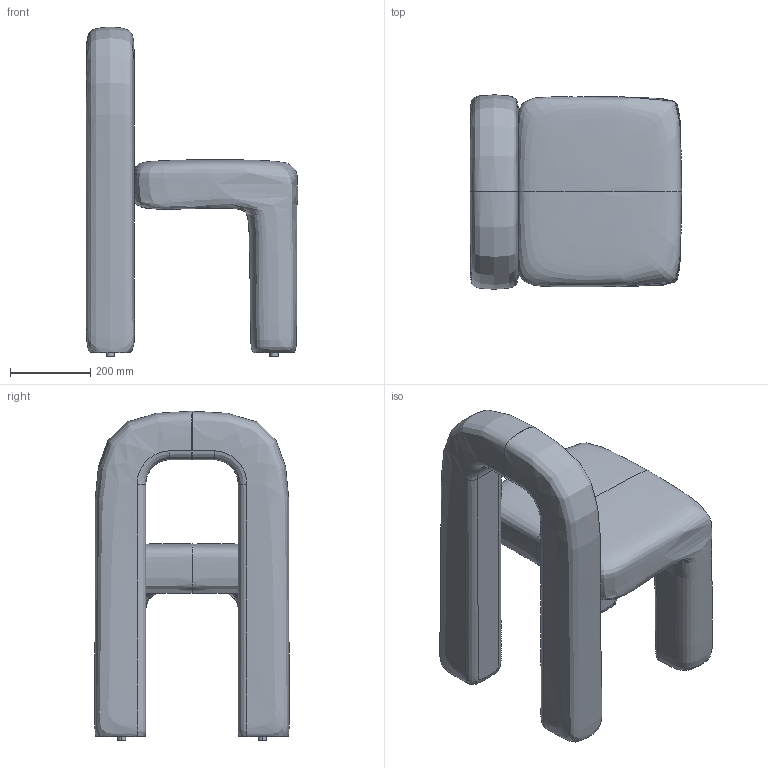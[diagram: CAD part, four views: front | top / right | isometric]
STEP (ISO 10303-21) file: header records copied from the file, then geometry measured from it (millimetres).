
FILE_DESCRIPTION(/* description */ (''),/* implementation_level */ '2;1');
FILE_NAME(/* name */ 'Daiku Dining Chair',/* time_stamp */ '2025-06-02T14:52:08+02:00',/* author */ (''),/* organization */ (''),/* preprocessor_version */ 'ST-DEVELOPER v16.5',/* originating_system */ 'Rhino 7.38',/* authorisation */ '');
FILE_SCHEMA (('CONFIG_CONTROL_DESIGN'));
Length unit declared in the file: millimetre
Products named in the file (1): Document
Bounding box: 525.74 x 483.42 x 819.36 mm (x, y, z)
Volume: 54097816.1 mm3; surface area: 1628911.9 mm2
Topology: 7 solids, 9 shells, 60 faces, 117 edges, 71 vertices
Faces by surface type: bspline 60
Entity records: 23459 total; most frequent: CARTESIAN_POINT 21935, ORIENTED_EDGE 228, PCURVE 228, DEFINITIONAL_REPRESENTATION 228, B_SPLINE_CURVE_WITH_KNOTS 218, SURFACE_CURVE 115, EDGE_CURVE 115, VERTEX_POINT 71
